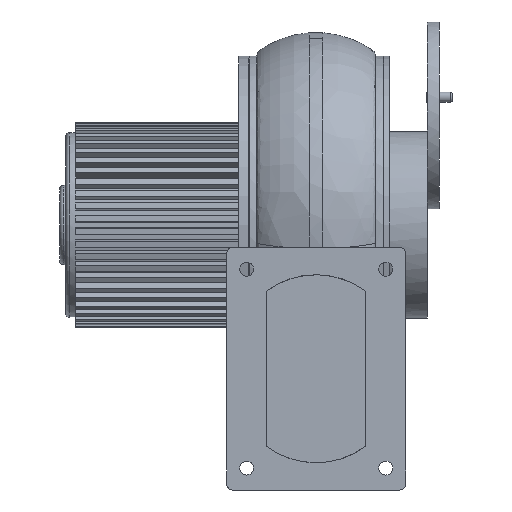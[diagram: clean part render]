
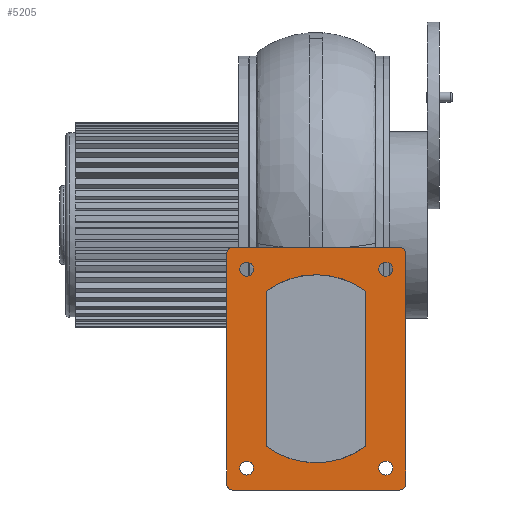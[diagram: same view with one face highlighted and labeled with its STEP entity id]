
A CAD part, front view. The second image highlights one B-rep face of the part: STEP entity #5205.
In plain terms, the highlighted planar face has unit normal (0, -1, 0).
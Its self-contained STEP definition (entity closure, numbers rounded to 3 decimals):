
#249=PLANE('',#5655);
#434=CIRCLE('',#5620,41.801);
#435=CIRCLE('',#5624,41.801);
#444=CIRCLE('',#5636,3.);
#445=CIRCLE('',#5639,3.);
#446=CIRCLE('',#5642,3.);
#447=CIRCLE('',#5645,3.);
#448=CIRCLE('',#5647,3.5);
#449=CIRCLE('',#5649,3.5);
#450=CIRCLE('',#5651,3.5);
#451=CIRCLE('',#5653,3.5);
#1876=ORIENTED_EDGE('',*,*,#2618,.F.);
#1877=ORIENTED_EDGE('',*,*,#2622,.F.);
#1878=ORIENTED_EDGE('',*,*,#2625,.F.);
#1879=ORIENTED_EDGE('',*,*,#2627,.F.);
#1880=ORIENTED_EDGE('',*,*,#2658,.T.);
#1881=ORIENTED_EDGE('',*,*,#2657,.T.);
#1882=ORIENTED_EDGE('',*,*,#2656,.T.);
#1883=ORIENTED_EDGE('',*,*,#2655,.T.);
#1884=ORIENTED_EDGE('',*,*,#2641,.T.);
#1885=ORIENTED_EDGE('',*,*,#2644,.T.);
#1886=ORIENTED_EDGE('',*,*,#2646,.T.);
#1887=ORIENTED_EDGE('',*,*,#2648,.T.);
#1888=ORIENTED_EDGE('',*,*,#2650,.T.);
#1889=ORIENTED_EDGE('',*,*,#2652,.T.);
#1890=ORIENTED_EDGE('',*,*,#2654,.T.);
#1891=ORIENTED_EDGE('',*,*,#2659,.T.);
#2618=EDGE_CURVE('',#3136,#3137,#434,.T.);
#2622=EDGE_CURVE('',#3139,#3136,#3696,.T.);
#2625=EDGE_CURVE('',#3141,#3139,#435,.T.);
#2627=EDGE_CURVE('',#3137,#3141,#3699,.T.);
#2641=EDGE_CURVE('',#3155,#3154,#444,.T.);
#2644=EDGE_CURVE('',#3154,#3156,#3707,.T.);
#2646=EDGE_CURVE('',#3156,#3157,#445,.T.);
#2648=EDGE_CURVE('',#3157,#3158,#3710,.T.);
#2650=EDGE_CURVE('',#3158,#3159,#446,.T.);
#2652=EDGE_CURVE('',#3159,#3160,#3713,.T.);
#2654=EDGE_CURVE('',#3160,#3161,#447,.T.);
#2655=EDGE_CURVE('',#3162,#3162,#448,.T.);
#2656=EDGE_CURVE('',#3163,#3163,#449,.T.);
#2657=EDGE_CURVE('',#3164,#3164,#450,.T.);
#2658=EDGE_CURVE('',#3165,#3165,#451,.T.);
#2659=EDGE_CURVE('',#3161,#3155,#3715,.T.);
#3136=VERTEX_POINT('',#11528);
#3137=VERTEX_POINT('',#11530);
#3139=VERTEX_POINT('',#11536);
#3141=VERTEX_POINT('',#11542);
#3154=VERTEX_POINT('',#11574);
#3155=VERTEX_POINT('',#11576);
#3156=VERTEX_POINT('',#11580);
#3157=VERTEX_POINT('',#11584);
#3158=VERTEX_POINT('',#11588);
#3159=VERTEX_POINT('',#11592);
#3160=VERTEX_POINT('',#11596);
#3161=VERTEX_POINT('',#11600);
#3162=VERTEX_POINT('',#11604);
#3163=VERTEX_POINT('',#11607);
#3164=VERTEX_POINT('',#11610);
#3165=VERTEX_POINT('',#11613);
#3696=LINE('',#11537,#4232);
#3699=LINE('',#11546,#4235);
#3707=LINE('',#11581,#4243);
#3710=LINE('',#11589,#4246);
#3713=LINE('',#11597,#4249);
#3715=LINE('',#11615,#4251);
#4232=VECTOR('',#6970,1000.);
#4235=VECTOR('',#6981,1000.);
#4243=VECTOR('',#7013,1000.);
#4246=VECTOR('',#7022,1000.);
#4249=VECTOR('',#7031,1000.);
#4251=VECTOR('',#7055,1000.);
#4540=EDGE_LOOP('',(#1876,#1877,#1878,#1879));
#4541=EDGE_LOOP('',(#1880));
#4542=EDGE_LOOP('',(#1881));
#4543=EDGE_LOOP('',(#1882));
#4544=EDGE_LOOP('',(#1883));
#4545=EDGE_LOOP('',(#1884,#1885,#1886,#1887,#1888,#1889,#1890,#1891));
#4874=FACE_BOUND('',#4540,.T.);
#4875=FACE_BOUND('',#4541,.T.);
#4876=FACE_BOUND('',#4542,.T.);
#4877=FACE_BOUND('',#4543,.T.);
#4878=FACE_BOUND('',#4544,.T.);
#4879=FACE_BOUND('',#4545,.T.);
#5205=ADVANCED_FACE('',(#4874,#4875,#4876,#4877,#4878,#4879),#249,.T.);
#5620=AXIS2_PLACEMENT_3D('',#11529,#6963,#6964);
#5624=AXIS2_PLACEMENT_3D('',#11543,#6976,#6977);
#5636=AXIS2_PLACEMENT_3D('',#11575,#7007,#7008);
#5639=AXIS2_PLACEMENT_3D('',#11585,#7017,#7018);
#5642=AXIS2_PLACEMENT_3D('',#11593,#7026,#7027);
#5645=AXIS2_PLACEMENT_3D('',#11601,#7035,#7036);
#5647=AXIS2_PLACEMENT_3D('',#11603,#7039,#7040);
#5649=AXIS2_PLACEMENT_3D('',#11606,#7043,#7044);
#5651=AXIS2_PLACEMENT_3D('',#11609,#7047,#7048);
#5653=AXIS2_PLACEMENT_3D('',#11612,#7051,#7052);
#5655=AXIS2_PLACEMENT_3D('',#11616,#7056,#7057);
#6963=DIRECTION('',(0.,-1.,0.));
#6964=DIRECTION('',(1.,0.,0.));
#6970=DIRECTION('',(0.,0.,1.));
#6976=DIRECTION('',(0.,-1.,0.));
#6977=DIRECTION('',(1.,0.,0.));
#6981=DIRECTION('',(0.,0.,-1.));
#7007=DIRECTION('',(0.,-1.,0.));
#7008=DIRECTION('',(1.,0.,0.));
#7013=DIRECTION('',(1.,0.,0.));
#7017=DIRECTION('',(0.,-1.,0.));
#7018=DIRECTION('',(-1.,0.,0.));
#7022=DIRECTION('',(0.,0.,1.));
#7026=DIRECTION('',(0.,-1.,0.));
#7027=DIRECTION('',(-1.,0.,0.));
#7031=DIRECTION('',(-1.,0.,0.));
#7035=DIRECTION('',(0.,-1.,0.));
#7036=DIRECTION('',(1.,0.,0.));
#7039=DIRECTION('',(0.,1.,0.));
#7040=DIRECTION('',(1.,0.,0.));
#7043=DIRECTION('',(0.,1.,0.));
#7044=DIRECTION('',(1.,0.,0.));
#7047=DIRECTION('',(0.,1.,0.));
#7048=DIRECTION('',(1.,0.,0.));
#7051=DIRECTION('',(0.,1.,0.));
#7052=DIRECTION('',(1.,0.,0.));
#7055=DIRECTION('',(0.,0.,-1.));
#7056=DIRECTION('',(0.,-1.,0.));
#7057=DIRECTION('',(0.,0.,-1.));
#11528=CARTESIAN_POINT('',(25.,-113.,-33.274));
#11529=CARTESIAN_POINT('',(0.,-113.,-66.774));
#11530=CARTESIAN_POINT('',(-25.,-113.,-33.274));
#11536=CARTESIAN_POINT('',(25.,-113.,-111.274));
#11537=CARTESIAN_POINT('',(25.,-113.,-111.274));
#11542=CARTESIAN_POINT('',(-25.,-113.,-111.274));
#11543=CARTESIAN_POINT('',(0.,-113.,-77.773));
#11546=CARTESIAN_POINT('',(-25.,-113.,-33.274));
#11574=CARTESIAN_POINT('',(-42.,-113.,-133.274));
#11575=CARTESIAN_POINT('',(-42.,-113.,-130.274));
#11576=CARTESIAN_POINT('',(-45.,-113.,-130.274));
#11580=CARTESIAN_POINT('',(42.,-113.,-133.274));
#11581=CARTESIAN_POINT('',(-42.,-113.,-133.274));
#11584=CARTESIAN_POINT('',(45.,-113.,-130.274));
#11585=CARTESIAN_POINT('',(42.,-113.,-130.274));
#11588=CARTESIAN_POINT('',(45.,-113.,-14.274));
#11589=CARTESIAN_POINT('',(45.,-113.,-130.274));
#11592=CARTESIAN_POINT('',(42.,-113.,-11.274));
#11593=CARTESIAN_POINT('',(42.,-113.,-14.274));
#11596=CARTESIAN_POINT('',(-42.,-113.,-11.274));
#11597=CARTESIAN_POINT('',(42.,-113.,-11.274));
#11600=CARTESIAN_POINT('',(-45.,-113.,-14.274));
#11601=CARTESIAN_POINT('',(-42.,-113.,-14.274));
#11603=CARTESIAN_POINT('',(-35.,-113.,-22.274));
#11604=CARTESIAN_POINT('',(-31.5,-113.,-22.274));
#11606=CARTESIAN_POINT('',(35.,-113.,-22.274));
#11607=CARTESIAN_POINT('',(38.5,-113.,-22.274));
#11609=CARTESIAN_POINT('',(-35.,-113.,-122.274));
#11610=CARTESIAN_POINT('',(-31.5,-113.,-122.274));
#11612=CARTESIAN_POINT('',(35.,-113.,-122.274));
#11613=CARTESIAN_POINT('',(38.5,-113.,-122.274));
#11615=CARTESIAN_POINT('',(-45.,-113.,-14.274));
#11616=CARTESIAN_POINT('',(-42.,-113.,-130.274));
